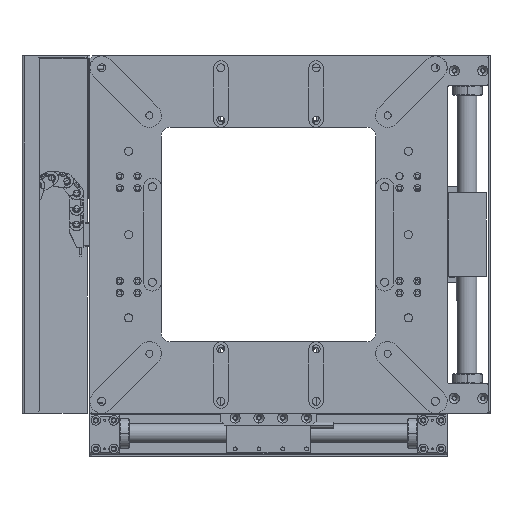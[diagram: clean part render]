
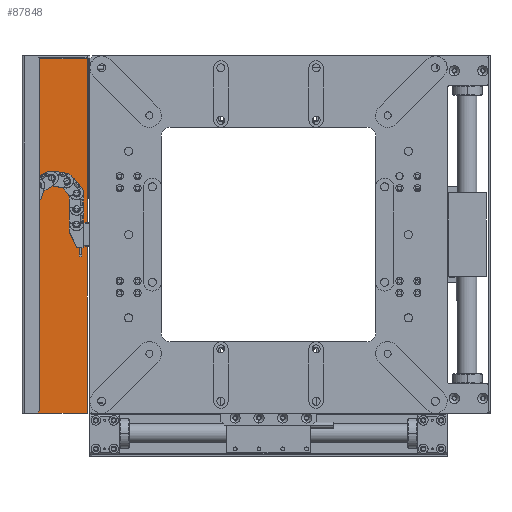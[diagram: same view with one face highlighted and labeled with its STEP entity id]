
A CAD part, front view. The second image highlights one B-rep face of the part: STEP entity #87848.
In plain terms, the highlighted planar face has unit normal (0, -1, 0).
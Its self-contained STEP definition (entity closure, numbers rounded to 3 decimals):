
#4490 = CARTESIAN_POINT ( 'NONE',  ( -333.673, 36.851, 497.763 ) ) ;
#7167 = CARTESIAN_POINT ( 'NONE',  ( -278.909, 36.851, 200. ) ) ;
#7890 = EDGE_LOOP ( 'NONE', ( #93339, #70269, #27625, #38169, #50029 ) ) ;
#10562 = VECTOR ( 'NONE', #26679, 1000. ) ;
#12353 = CARTESIAN_POINT ( 'NONE',  ( -333.673, 36.851, 200. ) ) ;
#13436 = VECTOR ( 'NONE', #68933, 1000. ) ;
#14485 = VECTOR ( 'NONE', #100261, 1000. ) ;
#14538 = LINE ( 'NONE', #7167, #32947 ) ;
#17220 = LINE ( 'NONE', #66157, #10562 ) ;
#17833 = LINE ( 'NONE', #84502, #25272 ) ;
#22620 = EDGE_CURVE ( 'NONE', #102299, #61728, #17220, .T. ) ;
#25272 = VECTOR ( 'NONE', #25724, 1000. ) ;
#25724 = DIRECTION ( 'NONE',  ( 0., 0., 1. ) ) ;
#26617 = LINE ( 'NONE', #4490, #14485 ) ;
#26679 = DIRECTION ( 'NONE',  ( 0., 0., 1. ) ) ;
#27625 = ORIENTED_EDGE ( 'NONE', *, *, #47707, .F. ) ;
#32649 = AXIS2_PLACEMENT_3D ( 'NONE', #84657, #86209, #92020 ) ;
#32947 = VECTOR ( 'NONE', #46591, 1000. ) ;
#35087 = VERTEX_POINT ( 'NONE', #68030 ) ;
#36276 = CARTESIAN_POINT ( 'NONE',  ( -281.146, 36.851, 200. ) ) ;
#38169 = ORIENTED_EDGE ( 'NONE', *, *, #74132, .T. ) ;
#42302 = EDGE_CURVE ( 'NONE', #60747, #84763, #17833, .T. ) ;
#43644 = LINE ( 'NONE', #36276, #13436 ) ;
#46591 = DIRECTION ( 'NONE',  ( -1., 0., 0. ) ) ;
#47707 = EDGE_CURVE ( 'NONE', #35087, #102299, #14538, .T. ) ;
#50029 = ORIENTED_EDGE ( 'NONE', *, *, #42302, .T. ) ;
#60747 = VERTEX_POINT ( 'NONE', #78072 ) ;
#61728 = VERTEX_POINT ( 'NONE', #79781 ) ;
#66157 = CARTESIAN_POINT ( 'NONE',  ( -333.673, 36.851, 200. ) ) ;
#68030 = CARTESIAN_POINT ( 'NONE',  ( -281.146, 36.851, 200. ) ) ;
#68933 = DIRECTION ( 'NONE',  ( 0., 0., 1. ) ) ;
#69377 = FACE_OUTER_BOUND ( 'NONE', #7890, .T. ) ;
#70269 = ORIENTED_EDGE ( 'NONE', *, *, #22620, .F. ) ;
#74132 = EDGE_CURVE ( 'NONE', #35087, #60747, #43644, .T. ) ;
#78072 = CARTESIAN_POINT ( 'NONE',  ( -281.146, 36.851, 380. ) ) ;
#79781 = CARTESIAN_POINT ( 'NONE',  ( -333.673, 36.851, 497.763 ) ) ;
#84144 = PLANE ( 'NONE',  #32649 ) ;
#84502 = CARTESIAN_POINT ( 'NONE',  ( -281.146, 36.851, 200. ) ) ;
#84657 = CARTESIAN_POINT ( 'NONE',  ( -278.909, 36.851, 200. ) ) ;
#84763 = VERTEX_POINT ( 'NONE', #94086 ) ;
#86209 = DIRECTION ( 'NONE',  ( 0., 1., 0. ) ) ;
#87848 = ADVANCED_FACE ( 'NONE', ( #69377 ), #84144, .F. ) ;
#89528 = EDGE_CURVE ( 'NONE', #61728, #84763, #26617, .T. ) ;
#92020 = DIRECTION ( 'NONE',  ( 0., 0., -1. ) ) ;
#93339 = ORIENTED_EDGE ( 'NONE', *, *, #89528, .F. ) ;
#94086 = CARTESIAN_POINT ( 'NONE',  ( -281.146, 36.851, 497.763 ) ) ;
#100261 = DIRECTION ( 'NONE',  ( 1., 0., 0. ) ) ;
#102299 = VERTEX_POINT ( 'NONE', #12353 ) ;
